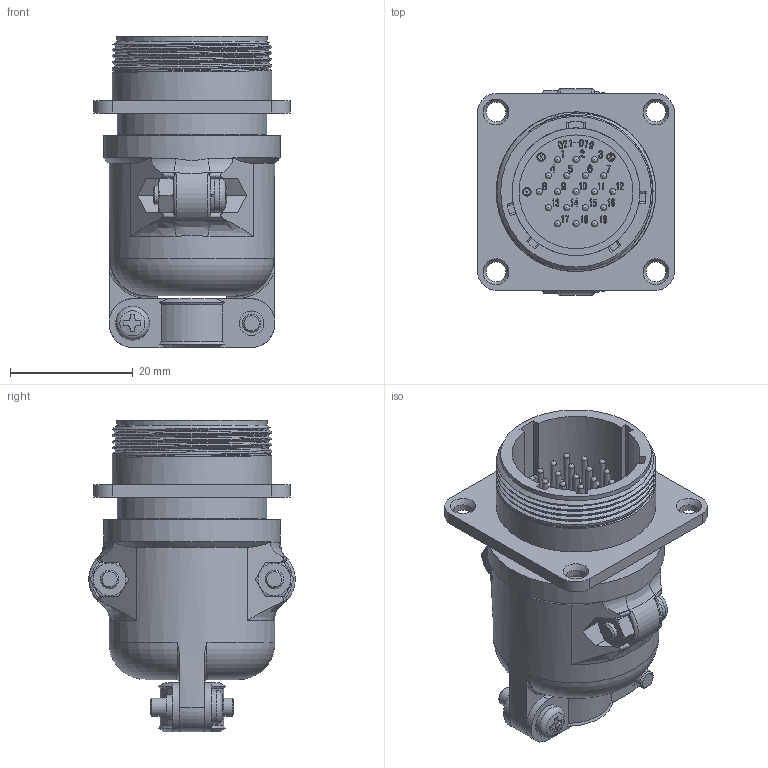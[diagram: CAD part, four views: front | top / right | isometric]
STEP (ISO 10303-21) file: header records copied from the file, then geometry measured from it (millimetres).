
FILE_DESCRIPTION (( 'STEP AP203' ), '1' );
FILE_NAME ('JMWR2119M-D.STEP', '2021-06-25T09:51:46', ( '' ), ( '' ), 'SwSTEP 2.0', 'SolidWorks 2018', '' );
FILE_SCHEMA (( 'CONFIG_CONTROL_DESIGN' ));
Products named in the file (1): JMWR2119M-D
Bounding box: 32 x 33.57 x 50.7 mm (x, y, z)
Volume: 13257.2 mm3; surface area: 12019 mm2
Topology: 1 solids, 5 shells, 1844 faces, 5044 edges, 3329 vertices
Faces by surface type: plane 808, bspline 729, cylinder 202, cone 46, torus 36, sphere 23
Full cylindrical faces by diameter (mm): 1 x19, 1.1 x22, 1.2 x1, 1.4 x4, 1.55 x19, 2.4 x4, 3 x8, 3.2 x4, 3.3 x2, 3.5 x2, 4 x2, 5.5 x2, 12 x1, 18.1 x1, 18.5 x1, 20.6 x1, 20.8 x1, 22.8 x1, 23 x1, 24.3 x1, 24.5 x1, 25.96 x4, 27 x1, 28.8 x1
Entity records: 82080 total; most frequent: CARTESIAN_POINT 41602, ORIENTED_EDGE 9602, DIRECTION 5818, EDGE_CURVE 4801, VERTEX_POINT 3248, VECTOR 2618, LINE 2618, EDGE_LOOP 2137
